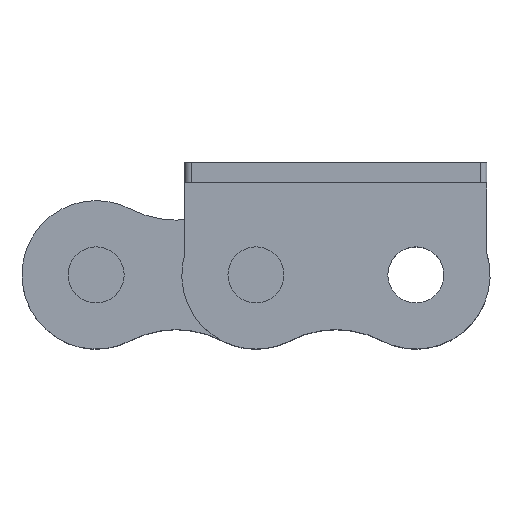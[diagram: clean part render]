
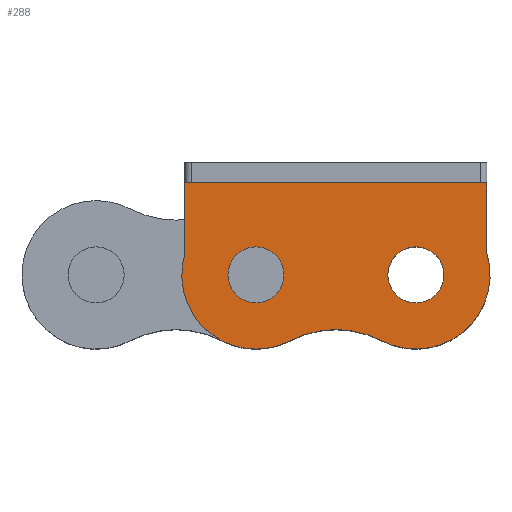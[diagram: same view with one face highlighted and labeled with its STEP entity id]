
A CAD part, top view. The second image highlights one B-rep face of the part: STEP entity #288.
In plain terms, the highlighted planar face has unit normal (0, 0, 1).
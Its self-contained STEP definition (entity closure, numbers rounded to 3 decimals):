
#288 = ADVANCED_FACE( '', ( #392, #393, #394 ), #395, .T. );
#392 = FACE_BOUND( '', #568, .T. );
#393 = FACE_BOUND( '', #569, .T. );
#394 = FACE_OUTER_BOUND( '', #570, .T. );
#395 = PLANE( '', #571 );
#568 = EDGE_LOOP( '', ( #868, #869 ) );
#569 = EDGE_LOOP( '', ( #870, #871 ) );
#570 = EDGE_LOOP( '', ( #872, #873, #874, #875, #876, #877, #878 ) );
#571 = AXIS2_PLACEMENT_3D( '', #879, #880, #881 );
#868 = ORIENTED_EDGE( '', *, *, #1331, .T. );
#869 = ORIENTED_EDGE( '', *, *, #1321, .T. );
#870 = ORIENTED_EDGE( '', *, *, #1333, .T. );
#871 = ORIENTED_EDGE( '', *, *, #1317, .T. );
#872 = ORIENTED_EDGE( '', *, *, #1362, .F. );
#873 = ORIENTED_EDGE( '', *, *, #1367, .F. );
#874 = ORIENTED_EDGE( '', *, *, #1365, .F. );
#875 = ORIENTED_EDGE( '', *, *, #1345, .F. );
#876 = ORIENTED_EDGE( '', *, *, #1354, .T. );
#877 = ORIENTED_EDGE( '', *, *, #1358, .T. );
#878 = ORIENTED_EDGE( '', *, *, #1309, .F. );
#879 = CARTESIAN_POINT( '', ( 0., 0., 1.6 ) );
#880 = DIRECTION( '', ( 0., 0., 1. ) );
#881 = DIRECTION( '', ( 1., 0., 0. ) );
#1309 = EDGE_CURVE( '', #1500, #1503, #1504, .T. );
#1317 = EDGE_CURVE( '', #1519, #1516, #1520, .T. );
#1321 = EDGE_CURVE( '', #1527, #1524, #1528, .T. );
#1331 = EDGE_CURVE( '', #1524, #1527, #1543, .T. );
#1333 = EDGE_CURVE( '', #1516, #1519, #1545, .T. );
#1345 = EDGE_CURVE( '', #1564, #1566, #1567, .T. );
#1354 = EDGE_CURVE( '', #1564, #1579, #1581, .T. );
#1358 = EDGE_CURVE( '', #1579, #1503, #1586, .T. );
#1362 = EDGE_CURVE( '', #1590, #1500, #1592, .T. );
#1365 = EDGE_CURVE( '', #1566, #1596, #1597, .T. );
#1367 = EDGE_CURVE( '', #1596, #1590, #1599, .T. );
#1500 = VERTEX_POINT( '', #1820 );
#1503 = VERTEX_POINT( '', #1824 );
#1504 = CIRCLE( '', #1825, 5.9 );
#1516 = VERTEX_POINT( '', #1840 );
#1519 = VERTEX_POINT( '', #1844 );
#1520 = CIRCLE( '', #1845, 2.225 );
#1524 = VERTEX_POINT( '', #1850 );
#1527 = VERTEX_POINT( '', #1854 );
#1528 = CIRCLE( '', #1855, 2.225 );
#1543 = CIRCLE( '', #1873, 2.225 );
#1545 = CIRCLE( '', #1875, 2.225 );
#1564 = VERTEX_POINT( '', #1900 );
#1566 = VERTEX_POINT( '', #1903 );
#1567 = LINE( '', #1904, #1905 );
#1579 = VERTEX_POINT( '', #1922 );
#1581 = LINE( '', #1925, #1926 );
#1586 = LINE( '', #1932, #1933 );
#1590 = VERTEX_POINT( '', #1938 );
#1592 = CIRCLE( '', #1941, 5.9 );
#1596 = VERTEX_POINT( '', #1945 );
#1597 = CIRCLE( '', #1946, 5.9 );
#1599 = CIRCLE( '', #1949, 7.867 );
#1820 = CARTESIAN_POINT( '', ( -2.721, -5.235, 1.6 ) );
#1824 = CARTESIAN_POINT( '', ( -5.65, 1.699, 1.6 ) );
#1825 = AXIS2_PLACEMENT_3D( '', #2225, #2226, #2227 );
#1840 = CARTESIAN_POINT( '', ( 2.225, 0., 1.6 ) );
#1844 = CARTESIAN_POINT( '', ( -2.225, 0., 1.6 ) );
#1845 = AXIS2_PLACEMENT_3D( '', #2241, #2242, #2243 );
#1850 = CARTESIAN_POINT( '', ( 14.925, 0., 1.6 ) );
#1854 = CARTESIAN_POINT( '', ( 10.475, 0., 1.6 ) );
#1855 = AXIS2_PLACEMENT_3D( '', #2249, #2250, #2251 );
#1873 = AXIS2_PLACEMENT_3D( '', #2273, #2274, #2275 );
#1875 = AXIS2_PLACEMENT_3D( '', #2279, #2280, #2281 );
#1900 = CARTESIAN_POINT( '', ( 18.35, 7.3, 1.6 ) );
#1903 = CARTESIAN_POINT( '', ( 18.35, 1.699, 1.6 ) );
#1904 = CARTESIAN_POINT( '', ( 18.35, 7.3, 1.6 ) );
#1905 = VECTOR( '', #2301, 1. );
#1922 = CARTESIAN_POINT( '', ( -5.65, 7.3, 1.6 ) );
#1925 = CARTESIAN_POINT( '', ( 18.35, 7.3, 1.6 ) );
#1926 = VECTOR( '', #2314, 1. );
#1932 = CARTESIAN_POINT( '', ( -5.65, 7.3, 1.6 ) );
#1933 = VECTOR( '', #2322, 1. );
#1938 = CARTESIAN_POINT( '', ( 2.721, -5.235, 1.6 ) );
#1941 = AXIS2_PLACEMENT_3D( '', #2328, #2329, #2330 );
#1945 = CARTESIAN_POINT( '', ( 9.979, -5.235, 1.6 ) );
#1946 = AXIS2_PLACEMENT_3D( '', #2337, #2338, #2339 );
#1949 = AXIS2_PLACEMENT_3D( '', #2341, #2342, #2343 );
#2225 = CARTESIAN_POINT( '', ( 0., 0., 1.6 ) );
#2226 = DIRECTION( '', ( 0., 0., -1. ) );
#2227 = DIRECTION( '', ( 0.461, 0.887, 0. ) );
#2241 = CARTESIAN_POINT( '', ( 0., 0., 1.6 ) );
#2242 = DIRECTION( '', ( 0., 0., -1. ) );
#2243 = DIRECTION( '', ( 1., 0., 0. ) );
#2249 = CARTESIAN_POINT( '', ( 12.7, 0., 1.6 ) );
#2250 = DIRECTION( '', ( 0., 0., -1. ) );
#2251 = DIRECTION( '', ( 1., 0., 0. ) );
#2273 = CARTESIAN_POINT( '', ( 12.7, 0., 1.6 ) );
#2274 = DIRECTION( '', ( 0., 0., -1. ) );
#2275 = DIRECTION( '', ( 1., 0., 0. ) );
#2279 = CARTESIAN_POINT( '', ( 0., 0., 1.6 ) );
#2280 = DIRECTION( '', ( 0., 0., -1. ) );
#2281 = DIRECTION( '', ( 1., 0., 0. ) );
#2301 = DIRECTION( '', ( 0., -1., 0. ) );
#2314 = DIRECTION( '', ( -1., 0., 0. ) );
#2322 = DIRECTION( '', ( 0., -1., 0. ) );
#2328 = CARTESIAN_POINT( '', ( 0., 0., 1.6 ) );
#2329 = DIRECTION( '', ( 0., 0., -1. ) );
#2330 = DIRECTION( '', ( 0.461, 0.887, 0. ) );
#2337 = CARTESIAN_POINT( '', ( 12.7, 0., 1.6 ) );
#2338 = DIRECTION( '', ( 0., 0., -1. ) );
#2339 = DIRECTION( '', ( -0.461, -0.887, 0. ) );
#2341 = CARTESIAN_POINT( '', ( 6.35, -12.215, 1.6 ) );
#2342 = DIRECTION( '', ( 0., 0., 1. ) );
#2343 = DIRECTION( '', ( -0.461, 0.887, 0. ) );
